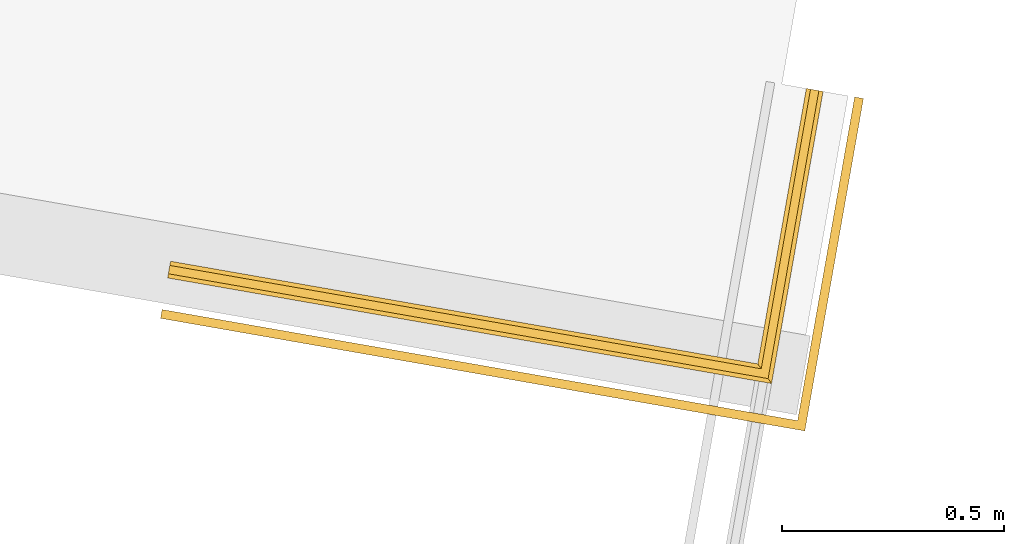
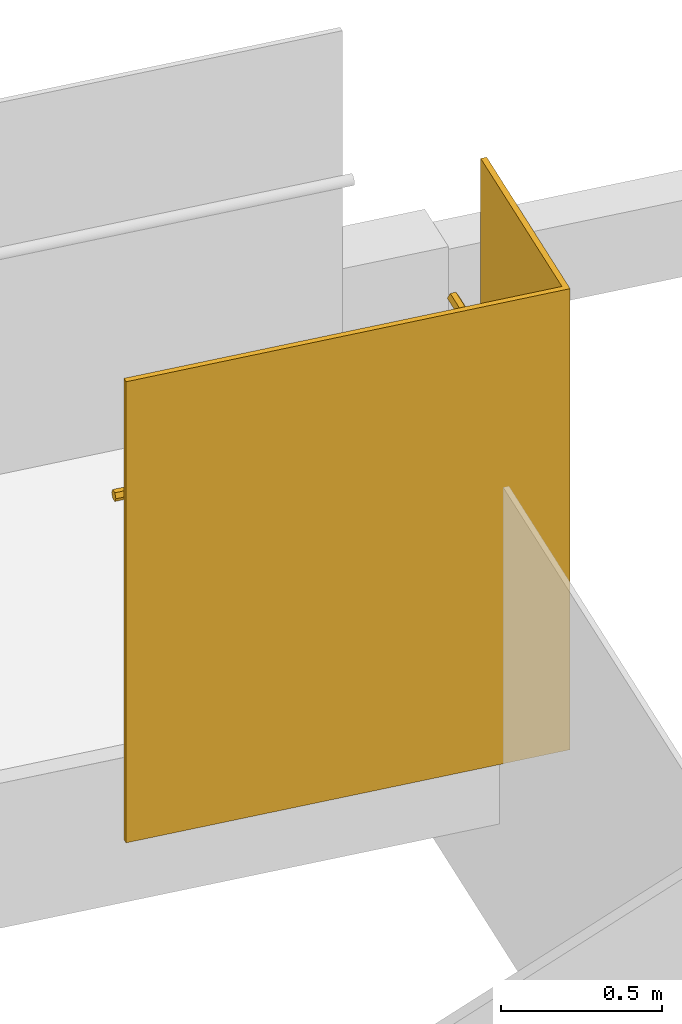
# One storey, part 7 of 9: 1 railing.
"""IFC2X3 building model written with IfcOpenShell, lengths in millimetres."""

from ifc_helpers import new_model, entity, si_unit, converted_unit, derived_unit, direction, frame, origin, place, context, subcontext, project, spatial, faceted_brep, material, element, save


model = new_model("IFC2X3")

# Units and contexts
model_context = context("Model", 3, precision=0.01, world=origin(), true_north=direction((6.12303176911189e-17, 1.0)))
body_context = subcontext(model_context, "Body", "Model", "MODEL_VIEW")
ifc_project = project(units=[si_unit("LENGTHUNIT", "METRE", prefix="MILLI"), si_unit("AREAUNIT", "SQUARE_METRE"), si_unit("VOLUMEUNIT", "CUBIC_METRE"), converted_unit("PLANEANGLEUNIT", "DEGREE", entity("IfcRatioMeasure", 0.0174532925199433), si_unit("PLANEANGLEUNIT", "RADIAN"), dimensions=[0, 0, 0, 0, 0, 0, 0]), si_unit("MASSUNIT", "GRAM", prefix="KILO"), derived_unit("MASSDENSITYUNIT", [(si_unit("MASSUNIT", "GRAM", prefix="KILO"), 1), (si_unit("LENGTHUNIT", "METRE"), -3)]), si_unit("TIMEUNIT", "SECOND"), si_unit("FREQUENCYUNIT", "HERTZ"), si_unit("THERMODYNAMICTEMPERATUREUNIT", "DEGREE_CELSIUS"), derived_unit("THERMALTRANSMITTANCEUNIT", [(si_unit("MASSUNIT", "GRAM", prefix="KILO"), 1), (si_unit("THERMODYNAMICTEMPERATUREUNIT", "KELVIN"), -1), (si_unit("TIMEUNIT", "SECOND"), -3)]), derived_unit("VOLUMETRICFLOWRATEUNIT", [(si_unit("LENGTHUNIT", "METRE"), 3), (si_unit("TIMEUNIT", "SECOND"), -1)]), si_unit("ELECTRICCURRENTUNIT", "AMPERE"), si_unit("ELECTRICVOLTAGEUNIT", "VOLT"), si_unit("POWERUNIT", "WATT"), si_unit("FORCEUNIT", "NEWTON", prefix="KILO"), si_unit("ILLUMINANCEUNIT", "LUX"), si_unit("LUMINOUSFLUXUNIT", "LUMEN"), si_unit("LUMINOUSINTENSITYUNIT", "CANDELA"), derived_unit("USERDEFINED", [(si_unit("MASSUNIT", "GRAM", prefix="KILO"), -1), (si_unit("LENGTHUNIT", "METRE"), -2), (si_unit("TIMEUNIT", "SECOND"), 3), (si_unit("LUMINOUSFLUXUNIT", "LUMEN"), 1)]), derived_unit("LINEARVELOCITYUNIT", [(si_unit("LENGTHUNIT", "METRE"), 1), (si_unit("TIMEUNIT", "SECOND"), -1)]), si_unit("PRESSUREUNIT", "PASCAL"), derived_unit("USERDEFINED", [(si_unit("LENGTHUNIT", "METRE"), -2), (si_unit("MASSUNIT", "GRAM", prefix="KILO"), 1), (si_unit("TIMEUNIT", "SECOND"), -2)])], contexts=[model_context])

# Site, building, storey
site_placement = place(None, origin())
site = spatial("IfcSite", under=ifc_project, at=site_placement, Name="<Kadaster Gemeente>;<Kadaster nummer>;<Kadaster sectie>", CompositionType="ELEMENT")
building_placement = place(site_placement, origin())
building = spatial("IfcBuilding", under=site, at=building_placement, Name="JRCZ Middelburg", CompositionType="ELEMENT")
storey_placement = place(building_placement, frame((0.0, 0.0, 3700.0)))
storey = spatial("IfcBuildingStorey", under=building, at=storey_placement, Name="02 tweede verdieping", CompositionType="ELEMENT", Elevation=3700.0)

# Railing
ifc_material = material(Name="Glass_RIPO")
railing_placement = place(storey_placement, frame((22092.6772315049, 16145.7161189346, -350.0)))
element("IfcRailing", 1, at=railing_placement, inside=storey, material=ifc_material, Name="Railing:RBM_RA_glasbalustrade", ObjectType="Railing:RBM_RA_glasbalustrade", PredefinedType="NOTDEFINED", context=body_context, shape_type="Brep", body=[
    faceted_brep([(0.0, 253.126298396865, 1750.0), (3.4438842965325, 272.827558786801, 1750.0), (3.4438842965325, 272.827558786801, 0.0), (0.0, 253.126298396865, 0.0), (1448.04723006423, 0.0, 1750.0), (1431.8189155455, 23.1400645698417, 1750.0), (1431.8189155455, 23.1400645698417, 0.0), (1448.04723006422, 0.0, 0.0), (1579.78193533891, 747.104639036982, 1750.0), (1579.78193533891, 747.104639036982, 0.0), (1560.08578027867, 750.577602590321, 0.0), (1560.08578027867, 750.577602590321, 1750.0)], [[[0, 1, 2, 3]], [[1, 0, 4, 5]], [[2, 1, 5, 6]], [[3, 2, 6, 7]], [[0, 3, 7, 4]], [[8, 9, 10, 11]], [[5, 4, 8, 11]], [[6, 5, 11, 10]], [[7, 6, 10, 9]], [[4, 7, 9, 8]]]),
    faceted_brep([(18.3279217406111, 357.973943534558, 1261.84778394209), (19.1479966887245, 362.665306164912, 1261.84778394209), (19.9680716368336, 367.356668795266, 1261.84778394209), (20.7881465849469, 372.048031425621, 1261.84778394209), (21.1981840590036, 374.393712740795, 1257.72333795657), (21.6082215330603, 376.739394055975, 1253.59889197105), (21.944579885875, 378.663582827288, 1250.21556252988), (22.4282964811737, 381.430756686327, 1245.35), (21.9445798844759, 378.663582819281, 1240.48443745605), (21.4608632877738, 375.896408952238, 1235.61887491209), (21.1245049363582, 373.972220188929, 1232.235545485), (20.7881465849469, 372.048031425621, 1228.85221605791), (19.9680716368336, 367.356668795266, 1228.85221605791), (19.1479966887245, 362.665306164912, 1228.85221605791), (18.3279217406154, 357.973943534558, 1228.85221605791), (17.507846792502, 353.282580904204, 1228.85221605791), (17.0978093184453, 350.936899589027, 1232.97666204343), (16.6877718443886, 348.59121827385, 1237.10110802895), (16.351413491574, 346.667029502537, 1240.48443747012), (15.8676968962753, 343.899855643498, 1245.35), (16.277734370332, 346.245536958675, 1249.47444598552), (16.6877718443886, 348.59121827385, 1253.59889197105), (17.0978093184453, 350.936899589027, 1257.72333795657), (17.507846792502, 353.282580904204, 1261.84778394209), (1373.27527091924, 106.61784750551, 1245.35), (1370.99590158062, 109.868015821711, 1250.21554965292), (1370.91939966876, 109.977100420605, 1250.37885089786), (1369.41090352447, 112.128075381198, 1253.59889197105), (1368.56352841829, 113.336353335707, 1255.40770179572), (1367.47871982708, 114.883189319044, 1257.72333795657), (1367.055032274, 115.487328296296, 1258.62774286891), (1365.5465361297, 117.638303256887, 1261.84778394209), (1350.08906655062, 139.679214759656, 1261.8477839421), (1348.15688285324, 142.434328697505, 1257.72333795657), (1346.22469915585, 145.189442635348, 1253.59889197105), (1344.29251545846, 147.944556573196, 1249.47444598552), (1342.36033176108, 150.699670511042, 1245.35), (1353.95343394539, 134.168986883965, 1261.84778394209), (1357.81780134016, 128.658759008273, 1261.84778394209), (1361.68216873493, 123.148531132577, 1261.84778394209), (1479.65160705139, 764.760317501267, 1261.84778394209), (1474.96146012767, 765.587316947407, 1261.84778394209), (1470.27131320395, 766.414316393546, 1261.84778394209), (1465.58116628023, 767.241315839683, 1261.84778394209), (1460.89101935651, 768.068315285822, 1261.84778394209), (1361.68216873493, 123.148531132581, 1228.85221605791), (1365.5465361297, 117.638303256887, 1228.85221605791), (1357.81780134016, 128.658759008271, 1228.85221605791), (1479.65160705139, 764.760317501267, 1228.85221605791), (1474.96146012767, 765.587316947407, 1228.85221605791), (1470.27131320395, 766.414316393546, 1228.85221605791), (1353.95343394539, 134.168986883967, 1228.85221605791), (1350.08906655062, 139.679214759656, 1228.85221605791), (1465.58116628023, 767.241315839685, 1228.85221605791), (1460.89101935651, 768.068315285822, 1228.85221605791), (1346.22469915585, 145.189442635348, 1237.10110802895), (1348.15688285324, 142.434328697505, 1232.97666204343), (1344.63970110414, 147.449502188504, 1240.4844503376), (1344.71620302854, 147.340417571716, 1240.32114906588), (1367.13153418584, 115.37824369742, 1232.23555837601), (1367.47871982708, 114.883189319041, 1232.97666204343), (1368.71653224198, 113.118184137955, 1235.61890069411), (1369.41090352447, 112.128075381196, 1237.10110802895), (1370.91939966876, 109.977100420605, 1240.32114910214), (1370.9959015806, 109.868015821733, 1240.48445034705), (1454.37005696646, 769.218136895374, 1250.37890776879), (1456.20087243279, 768.895314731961, 1253.59889197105), (1458.54594589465, 768.481815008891, 1257.72333795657), (1481.99668051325, 764.346817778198, 1257.72333795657), (1484.34175397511, 763.933318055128, 1253.59889197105), (1486.68682743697, 763.519818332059, 1249.47444598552), (1489.03190089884, 763.106318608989, 1245.35), (1486.68682743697, 763.519818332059, 1241.22555401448), (1484.34175397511, 763.933318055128, 1237.10110802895), (1481.99668051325, 764.346817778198, 1232.97666204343), (1459.06020390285, 768.391137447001, 1232.07220023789), (1457.22938844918, 768.713959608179, 1235.29218441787), (1454.37005697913, 769.218136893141, 1240.32109220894), (1451.51072550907, 769.7223141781, 1245.35)], [[[0, 1, 2, 3, 4, 5, 6, 7, 8, 9, 10, 11, 12, 13, 14, 15, 16, 17, 18, 19, 20, 21, 22, 23]], [[24, 25, 26, 27, 28, 29, 30, 31, 23, 22, 21, 20, 19]], [[5, 4, 3, 32, 33, 34, 35, 36, 7, 6]], [[1, 37, 2]], [[38, 37, 1]], [[1, 0, 38]], [[38, 0, 39]], [[23, 39, 0]], [[23, 31, 39]], [[31, 40, 39]], [[39, 40, 41]], [[38, 39, 41]], [[42, 38, 41]], [[42, 37, 38]], [[37, 42, 43]], [[43, 32, 37]], [[43, 44, 32]], [[32, 3, 2]], [[32, 2, 37]], [[45, 15, 14]], [[46, 15, 45]], [[47, 45, 14]], [[45, 48, 46]], [[48, 45, 49]], [[45, 47, 49]], [[50, 49, 47]], [[13, 47, 14]], [[13, 51, 47]], [[51, 13, 12]], [[12, 52, 51]], [[12, 11, 52]], [[52, 53, 51]], [[54, 53, 52]], [[51, 53, 50]], [[50, 47, 51]], [[55, 56, 52, 11, 10, 9, 8, 7, 36, 57, 58]], [[24, 19, 18, 17, 16, 15, 46, 59, 60, 61, 62, 63, 64]], [[65, 66, 67, 44, 43, 42, 41, 40, 68, 69, 70, 71, 72, 73, 74, 48, 49, 50, 53, 54, 75, 76, 77, 78]], [[70, 69, 68, 40, 31, 30, 29, 28, 27, 26, 25, 24, 71]], [[78, 36, 35, 34, 33, 32, 44, 67, 66, 65]], [[76, 75, 54, 52, 56, 55, 58, 57, 36, 78, 77]], [[74, 73, 72, 71, 24, 64, 63, 62, 61, 60, 59, 46, 48]]]),
])

save(model, "model.ifc")
